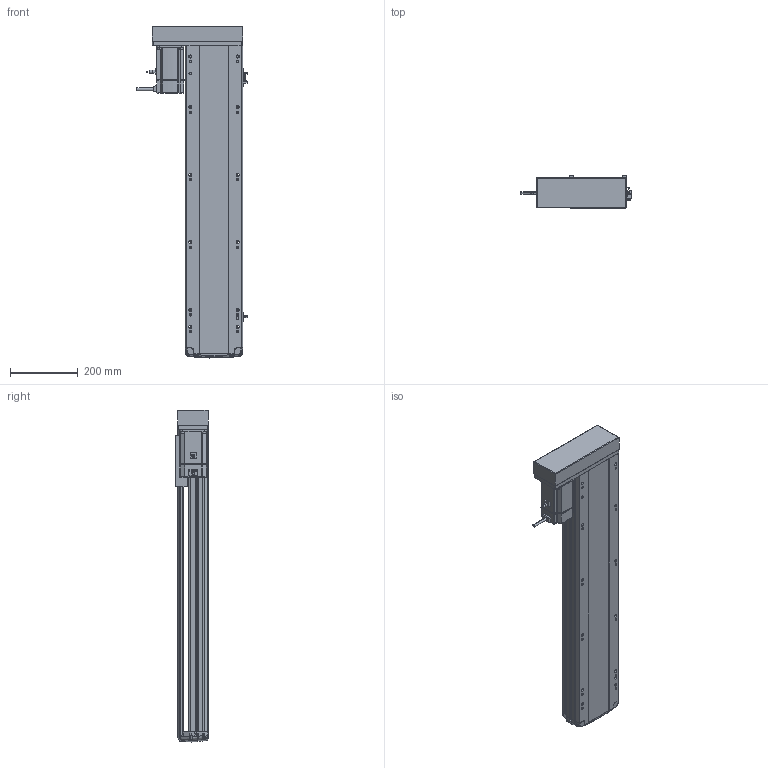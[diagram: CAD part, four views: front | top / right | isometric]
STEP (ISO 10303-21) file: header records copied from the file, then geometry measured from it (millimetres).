
FILE_DESCRIPTION (( 'STEP AP214' ), '1' );
FILE_NAME ('RTH17-XX-700-R-M75-C4.STEP', '2025-10-24T10:17:09', ( '' ), ( '' ), 'SwSTEP 2.0', 'SolidWorks 2018', '' );
FILE_SCHEMA (( 'AUTOMOTIVE_DESIGN' ));
Length unit declared in the file: millimetre
Products named in the file (10): N_RTH17-M-011底座^RTH17-XX-XX-R-M75-C4（方程式）; N_RTH17-E-004丝杆螺母连接座^RTH17-XX-XX-R-M75-C4（方程式）; N_RTH17-GY-001P^RTH17-XX-XX-R-M75-C4（方程式）; RTH17-XX-700-R-M75-C4; N_RTH17-L-008-P75电机安装板左转折^RTH17-XX-XX-R-M75-C4（方程式）; N_RTH-L-012 感应片(外置)^RTH17-XX-XX-R-M75-C4（方程式）; N_RTH17-L-018盖子^RTH17-XX-XX-R-M75-C4（方程式）; N_M75^RTH17-XX-XX-R-M75-C4（方程式）; N_OMRON EE-SX672 換覜ん^RTH17-XX-XX-R-M75-C4ㄗ源最宒ㄘ; N_RTH17-M-007上盖^RTH17-XX-XX-R-M75-C4（方程式）
Assembly tree (11 placements, depth 2):
  RTH17-XX-700-R-M75-C4
    N_RTH17-M-011底座^RTH17-XX-XX-R-M75-C4（方程式）
    N_RTH17-M-007上盖^RTH17-XX-XX-R-M75-C4（方程式）
    N_M75^RTH17-XX-XX-R-M75-C4（方程式）
    N_OMRON EE-SX672 換覜ん^RTH17-XX-XX-R-M75-C4ㄗ源最宒ㄘ  x3
    N_RTH-L-012 感应片(外置)^RTH17-XX-XX-R-M75-C4（方程式）
    N_RTH17-L-008-P75电机安装板左转折^RTH17-XX-XX-R-M75-C4（方程式）
    N_RTH17-L-018盖子^RTH17-XX-XX-R-M75-C4（方程式）
    N_RTH17-E-004丝杆螺母连接座^RTH17-XX-XX-R-M75-C4（方程式）
    N_RTH17-GY-001P^RTH17-XX-XX-R-M75-C4（方程式）
Bounding box: 326.2 x 97 x 982.99 mm (x, y, z)
Volume: 9175292.7 mm3; surface area: 1152944.1 mm2
Topology: 13 solids, 15 shells, 1757 faces, 4835 edges, 3130 vertices
Faces by surface type: plane 833, cylinder 510, bspline 377, cone 28, torus 9
Entity records: 51269 total; most frequent: CARTESIAN_POINT 20495, ORIENTED_EDGE 6694, DIRECTION 5563, EDGE_CURVE 3351, VERTEX_POINT 2166, AXIS2_PLACEMENT_3D 1873, LINE 1817, VECTOR 1817
